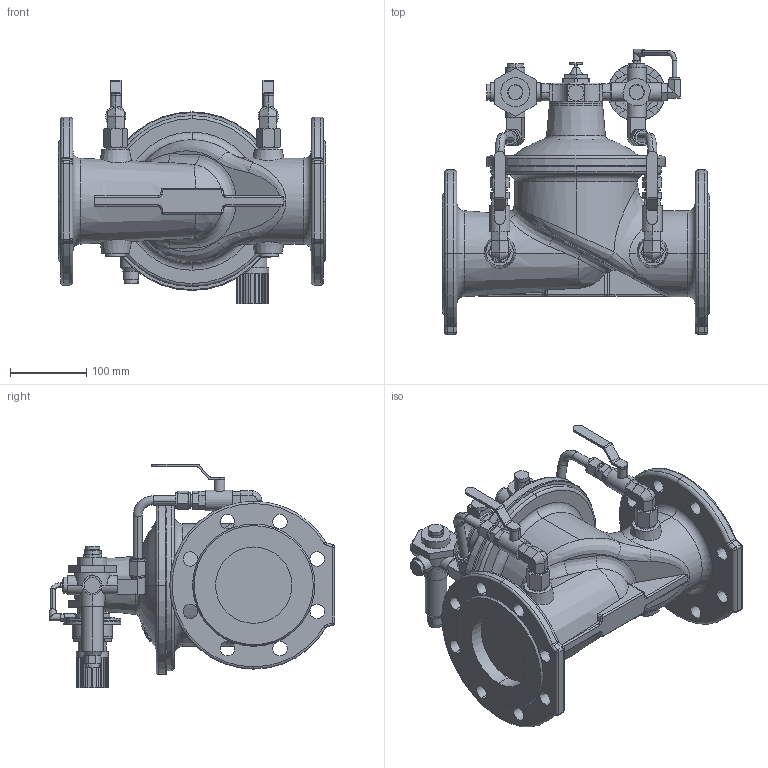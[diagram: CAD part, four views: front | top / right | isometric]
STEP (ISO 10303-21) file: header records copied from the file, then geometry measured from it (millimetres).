
FILE_DESCRIPTION (( 'STEP AP203' ), '1' );
FILE_NAME ('O_859_00_DN100_1XXXX00_REV01.step', '2020-11-17T11:56:40', ( '' ), ( '' ), 'SwSTEP 2.0', 'SolidWorks 2019', '' );
FILE_SCHEMA (( 'CONFIG_CONTROL_DESIGN' ));
Length unit declared in the file: millimetre
Products named in the file (1): O_859_00_DN100_1XXXX00_REV01
Bounding box: 350 x 373.83 x 292.79 mm (x, y, z)
Volume: 7556016.8 mm3; surface area: 532422.4 mm2
Topology: 1 solids, 1 shells, 987 faces, 2448 edges, 1531 vertices
Faces by surface type: plane 523, cylinder 306, cone 68, torus 66, bspline 20, sphere 4
Entity records: 33353 total; most frequent: CARTESIAN_POINT 9968, ORIENTED_EDGE 4880, DIRECTION 4855, EDGE_CURVE 2440, AXIS2_PLACEMENT_3D 1793, VERTEX_POINT 1531, LINE 1269, VECTOR 1269
